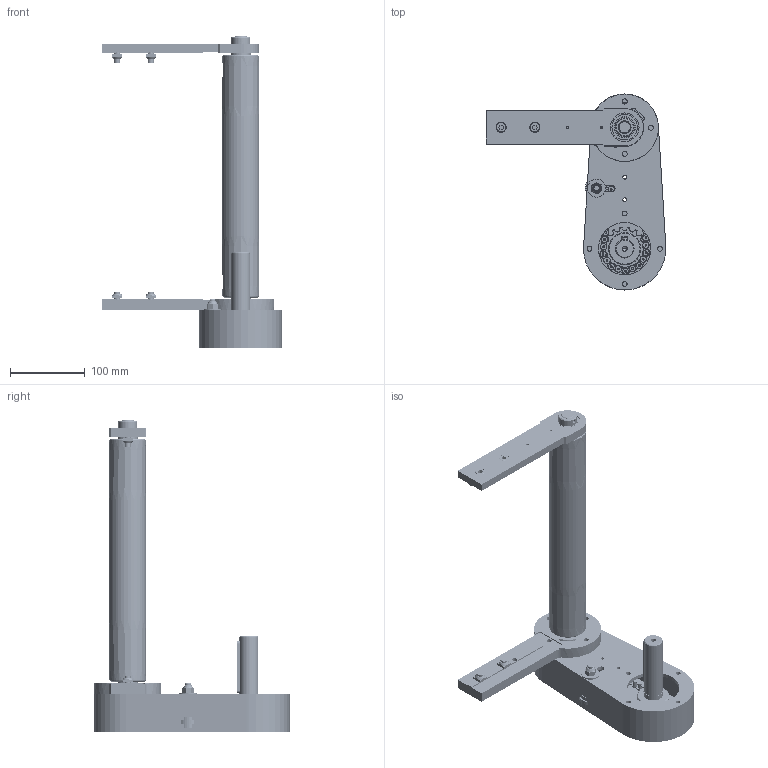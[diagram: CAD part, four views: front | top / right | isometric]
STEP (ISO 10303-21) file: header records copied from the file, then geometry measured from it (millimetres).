
FILE_DESCRIPTION (( 'STEP AP203' ), '1' );
FILE_NAME ('084.050.KTC.49.300.STEP', '2019-07-29T13:25:38', ( '' ), ( '' ), 'SwSTEP 2.0', 'SolidWorks 2018', '' );
FILE_SCHEMA (( 'CONFIG_CONTROL_DESIGN' ));
Length unit declared in the file: millimetre
Products named in the file (24): Circlip DIN 471 - 8 x 0.8_Circlip DIN 471 - 8 x 0.8; 084.810.004; 084.802.034_084.802.034; RONDELLE FASCIA LARGA UNI 6593_8.4x24 UNI 6593; 084.810.001; CHIAVETTE_A 8x7x70 UNI 6604-69; DADI ESAGONALI AUTOBLOCCANTI UNI 7473 INOX_M8 UNI 7473 INOX; 084.807.001_084.807.001; CUSCINETTI A SFERE_608-2RS; 084.810.010; 084.810.005; 084.809.003; 084.815.105_Default<A macchina>; 084.803.014; 084.302.000 DADI ALUSIC 13x13_084.302.004; 084.050.KTC.49.300; 084.811.004; 084.802.017_084.802.017; 084.813.005; 084.807.002_084.807.002; 084.809.002; 084.803.012; 084.813.001; 084.301.000 VITI ALUSIC_084.301.003
Assembly tree (32 placements, depth 3):
  084.050.KTC.49.300
    084.815.105_Default<A macchina>
    084.811.004
    084.813.001
    084.810.001  x2
    084.802.034_084.802.034
    084.802.017_084.802.017
    084.807.001_084.807.001
    084.807.002_084.807.002
    084.803.014  x2
    084.803.012
    084.809.002
    084.809.003
    084.810.005
      084.810.010
      084.810.004
      CUSCINETTI A SFERE_608-2RS  x2
      Circlip DIN 471 - 8 x 0.8_Circlip DIN 471 - 8 x 0.8
      RONDELLE FASCIA LARGA UNI 6593_8.4x24 UNI 6593
      DADI ESAGONALI AUTOBLOCCANTI UNI 7473 INOX_M8 UNI 7473 INOX
    084.301.000 VITI ALUSIC_084.301.003  x4
    084.302.000 DADI ALUSIC 13x13_084.302.004  x4
    CHIAVETTE_A 8x7x70 UNI 6604-69
    084.813.005
Bounding box: 240 x 261.5 x 416 mm (x, y, z)
Volume: 884019.9 mm3; surface area: 507184.8 mm2
Topology: 61 solids, 62 shells, 2854 faces, 6735 edges, 4305 vertices
Faces by surface type: cylinder 1399, plane 720, bspline 468, cone 172, torus 86, sphere 9
Entity records: 81297 total; most frequent: CARTESIAN_POINT 18493, DIRECTION 13655, ORIENTED_EDGE 11868, EDGE_CURVE 5934, AXIS2_PLACEMENT_3D 5764, VERTEX_POINT 3782, CIRCLE 3644, EDGE_LOOP 3104
